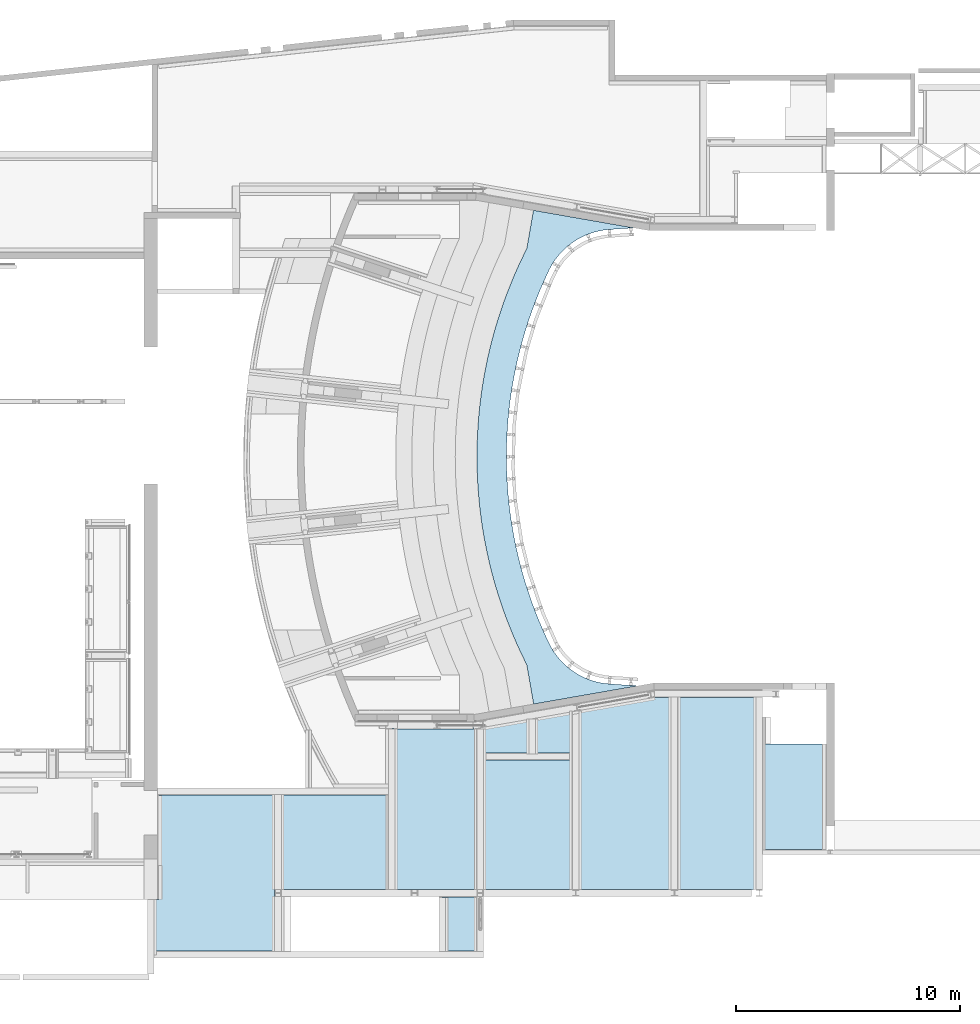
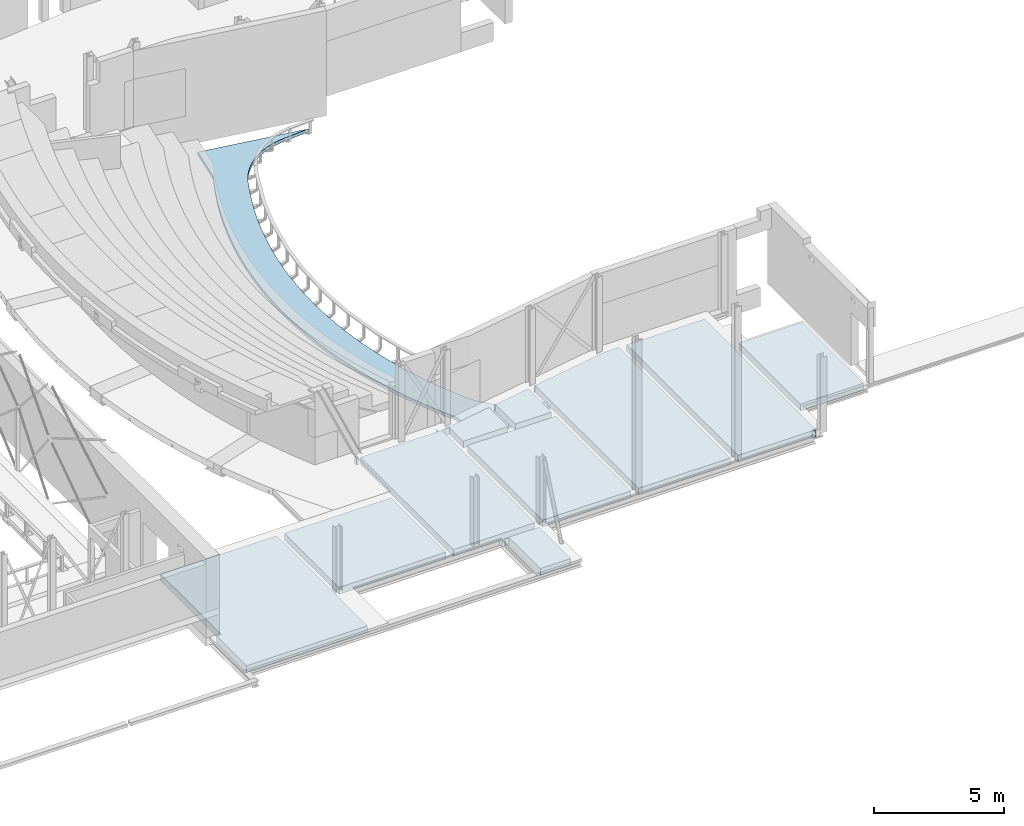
# One storey, part 49 of 68: 2 slabs, 19 openings.
"""IFC2X3 building model written with IfcOpenShell, lengths in millimetres."""

from ifc_helpers import new_model, entity, si_unit, converted_unit, derived_unit, direction, frame, frame_2d, origin, origin_2d_with_axis, place, context, subcontext, project, spatial, polyline, circle_curve, parameter, trimmed, segment, composite_curve, rectangle, outline, extrude, faceted_brep, material, layer, layer_set, layer_usage, type_object, element, save


model = new_model("IFC2X3")

# Units and contexts
model_context = context("Model", 3, precision=0.01, world=origin(), true_north=direction((6.12303176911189e-17, 1.0)))
body_context = subcontext(model_context, "Body", "Model", "MODEL_VIEW")
ifc_project = project(units=[si_unit("LENGTHUNIT", "METRE", prefix="MILLI"), si_unit("AREAUNIT", "SQUARE_METRE", prefix="MILLI"), si_unit("VOLUMEUNIT", "CUBIC_METRE"), converted_unit("PLANEANGLEUNIT", "DEGREE", entity("IfcRatioMeasure", 0.0174532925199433), si_unit("PLANEANGLEUNIT", "RADIAN"), dimensions=[0, 0, 0, 0, 0, 0, 0]), si_unit("MASSUNIT", "GRAM", prefix="KILO"), derived_unit("MASSDENSITYUNIT", [(si_unit("MASSUNIT", "GRAM", prefix="KILO"), 1), (si_unit("LENGTHUNIT", "METRE"), -3)]), derived_unit("MOMENTOFINERTIAUNIT", [(si_unit("LENGTHUNIT", "METRE"), 4)]), si_unit("TIMEUNIT", "SECOND"), si_unit("FREQUENCYUNIT", "HERTZ"), si_unit("THERMODYNAMICTEMPERATUREUNIT", "DEGREE_CELSIUS"), derived_unit("THERMALTRANSMITTANCEUNIT", [(si_unit("MASSUNIT", "GRAM", prefix="KILO"), 1), (si_unit("THERMODYNAMICTEMPERATUREUNIT", "KELVIN"), -1), (si_unit("TIMEUNIT", "SECOND"), -3)]), derived_unit("VOLUMETRICFLOWRATEUNIT", [(si_unit("LENGTHUNIT", "METRE"), 3), (si_unit("TIMEUNIT", "SECOND"), -1)]), si_unit("ELECTRICCURRENTUNIT", "AMPERE"), si_unit("ELECTRICVOLTAGEUNIT", "VOLT"), si_unit("POWERUNIT", "WATT"), si_unit("FORCEUNIT", "NEWTON", prefix="KILO"), si_unit("ILLUMINANCEUNIT", "LUX"), si_unit("LUMINOUSFLUXUNIT", "LUMEN"), si_unit("LUMINOUSINTENSITYUNIT", "CANDELA"), derived_unit("USERDEFINED", [(si_unit("MASSUNIT", "GRAM", prefix="KILO"), -1), (si_unit("LENGTHUNIT", "METRE"), -2), (si_unit("TIMEUNIT", "SECOND"), 3), (si_unit("LUMINOUSFLUXUNIT", "LUMEN"), 1)]), derived_unit("LINEARVELOCITYUNIT", [(si_unit("LENGTHUNIT", "METRE"), 1), (si_unit("TIMEUNIT", "SECOND"), -1)]), si_unit("PRESSUREUNIT", "PASCAL"), derived_unit("USERDEFINED", [(si_unit("LENGTHUNIT", "METRE"), -2), (si_unit("MASSUNIT", "GRAM", prefix="KILO"), 1), (si_unit("TIMEUNIT", "SECOND"), -2)]), derived_unit("LINEARFORCEUNIT", [(si_unit("MASSUNIT", "GRAM", prefix="KILO"), 1), (si_unit("LENGTHUNIT", "METRE"), 1), (si_unit("TIMEUNIT", "SECOND"), -2), (si_unit("LENGTHUNIT", "METRE"), -1)]), derived_unit("PLANARFORCEUNIT", [(si_unit("MASSUNIT", "GRAM", prefix="KILO"), 1), (si_unit("LENGTHUNIT", "METRE"), 1), (si_unit("TIMEUNIT", "SECOND"), -2), (si_unit("LENGTHUNIT", "METRE"), -2)])], contexts=[model_context])

# Site, building, storey
site_placement = place(None, origin())
site = spatial("IfcSite", under=ifc_project, at=site_placement, Name="Theater aan de Parade", CompositionType="ELEMENT")
building_placement = place(site_placement, origin())
building = spatial("IfcBuilding", under=site, at=building_placement, Name="Theater aan de Parade", CompositionType="ELEMENT")
storey_placement = place(building_placement, frame((0.0, 0.0, 8750.0)))
storey = spatial("IfcBuildingStorey", under=building, at=storey_placement, Name="02 tweede verdieping", CompositionType="ELEMENT", Elevation=8750.0)

# Slab, openings
ifc_material_1 = material(Name="00_PBT_MAT_systeemvloer")
ifc_layer_1 = layer(ifc_material_1, 320.0)
ifc_layer_set_1 = layer_set([ifc_layer_1], Name="Floor:28_PBT_FL_kanaalplaat_d=320")
ifc_layer_usage_1 = layer_usage(ifc_layer_set_1, "AXIS3", "POSITIVE", 0.0)
slab_type_1 = type_object("IfcSlabType", Name="Floor:28_PBT_FL_kanaalplaat_d=320", PredefinedType="FLOOR", material=ifc_layer_set_1)
slab_1_placement = place(storey_placement, frame((37313.8581300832, 10357.0, -460.0)))
slab_1 = element("IfcSlab", 1, at=slab_1_placement, inside=storey, type_object=slab_type_1, material=ifc_layer_usage_1, Name="Floor:28_PBT_FL_kanaalplaat_d=320", ObjectType="Floor:28_PBT_FL_kanaalplaat_d=320", PredefinedType="FLOOR", context=body_context, shape_type="SweptSolid", body=[
    extrude(outline(polyline([(14786.1989854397, -3351.77323029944), (14786.1989854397, 1479.24437555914), (4381.89559468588, 1479.24437555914), (4381.89559468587, 4424.0), (683.653931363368, 4424.0), (-7373.48892577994, 5834.0), (-12034.4949599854, 5834.0), (-12034.4949599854, 3599.81348587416), (-14996.1989854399, 3599.81348587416), (-14996.1989854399, -1241.0), (-12034.4949599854, -1241.0), (-12034.4949599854, -2916.0), (-11684.4949599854, -2916.0), (-11684.4949599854, -3066.0), (441.501955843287, -3066.0), (441.501955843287, -5824.0), (2141.34163382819, -5824.0), (2141.34163382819, -3066.0), (9465.14795208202, -3066.0), (9465.14795208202, -5824.0), (15156.1989854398, -5824.0), (15156.1989854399, -3351.77323029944), (14786.1989854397, -3351.77323029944)])), frame((14996.1989854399, 5664.0, 320.0), z_axis=(0.0, 0.0, -1.0), x_axis=(-1.0, 0.0, 0.0)), (0.0, 0.0, 1.0), 320.0),
])
opening_1_placement = place(slab_1_placement, origin())
element("IfcOpeningElement", 2, at=opening_1_placement, cuts=slab_1, ObjectType="Opening", context=body_context, shape_type="SweptSolid", body=[
    extrude(rectangle(XDim=3334.52676970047, YDim=320.000000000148, at=origin_2d_with_axis()), frame((-160.0, 644.963384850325, -5.0), z_axis=(0.0, 0.0, 1.0), x_axis=(0.0, -1.0, 0.0)), (0.0, 0.0, 1.0), 325.0),
])
opening_2_placement = place(slab_1_placement, origin())
element("IfcOpeningElement", 3, at=opening_2_placement, cuts=slab_1, ObjectType="Opening", context=body_context, shape_type="SweptSolid", body=[
    extrude(rectangle(XDim=339.999999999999, YDim=10320.0, at=origin_2d_with_axis()), frame((5300.0, 7143.24437555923, -5.0), z_axis=(0.0, 0.0, 1.0), x_axis=(0.0, -1.0, 0.0)), (0.0, 0.0, 1.0), 325.0),
])
opening_3_placement = place(slab_1_placement, origin())
element("IfcOpeningElement", 4, at=opening_3_placement, cuts=slab_1, ObjectType="Opening", context=body_context, shape_type="SweptSolid", body=[
    extrude(rectangle(XDim=21300.0, YDim=339.999999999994, at=origin_2d_with_axis()), frame((16030.6939454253, 2598.0, -80.0), z_axis=(0.0, 0.0, 1.0), x_axis=(-1.0, 0.0, 0.0)), (0.0, 0.0, 1.0), 550.0),
])
opening_4_placement = place(slab_1_placement, origin())
element("IfcOpeningElement", 5, at=opening_4_placement, cuts=slab_1, ObjectType="Opening", context=body_context, shape_type="SweptSolid", body=[
    extrude(rectangle(XDim=339.999999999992, YDim=3515.82327780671, at=origin_2d_with_axis()), frame((12472.6992357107, 10088.0, 0.0), z_axis=(0.0, 0.0, 1.0), x_axis=(0.0, 1.0, 0.0)), (0.0, 0.0, 1.0), 320.0),
])
opening_5_placement = place(slab_1_placement, origin())
element("IfcOpeningElement", 6, at=opening_5_placement, cuts=slab_1, ObjectType="Opening", context=body_context, shape_type="SweptSolid", body=[
    extrude(rectangle(XDim=8227.18093451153, YDim=340.000000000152, at=origin_2d_with_axis()), frame((18290.5280190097, 10784.1470188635, -5.0), z_axis=(0.0, 0.0, 1.0), x_axis=(-0.985030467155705, -0.172380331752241, 0.0)), (0.0, 0.0, 1.0), 325.0),
])
opening_6_placement = place(slab_1_placement, origin())
element("IfcOpeningElement", 7, at=opening_6_placement, cuts=slab_1, ObjectType="Opening", context=body_context, shape_type="SweptSolid", body=[
    extrude(rectangle(XDim=339.999999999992, YDim=5560.0, at=origin_2d_with_axis()), frame((25118.1939454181, 11498.0, 0.0), z_axis=(0.0, 0.0, 1.0), x_axis=(0.0, 1.0, 0.0)), (0.0, 0.0, 1.0), 320.0),
])
opening_7_placement = place(slab_1_placement, origin())
element("IfcOpeningElement", 8, at=opening_7_placement, cuts=slab_1, ObjectType="Opening", context=body_context, shape_type="SweptSolid", body=[
    extrude(rectangle(XDim=340.000000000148, YDim=2467.99999999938, at=origin_2d_with_axis()), frame((14561.4470295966, 1214.0, -85.0), z_axis=(0.0, 0.0, 1.0), x_axis=(-1.0, 0.0, 0.0)), (0.0, 0.0, 1.0), 405.0),
])
opening_8_placement = place(slab_1_placement, frame((5261.05103335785, -20.0, -85.0)))
element("IfcOpeningElement", 9, at=opening_8_placement, cuts=slab_1, ObjectType="Opening", context=body_context, shape_type="Brep", body=[
    faceted_brep([(440.0, 2468.0, 1.0), (440.0, 1968.0, 1.0), (440.0, 2468.0, 0.0), (440.0, 0.0, 0.0), (440.0, 1968.0, 2.0), (440.0, 2468.0, 2.0), (440.0, 2468.0, 405.0), (440.0, 0.0, 405.0), (440.0, 150.0, 1.0), (440.0, 0.0, 1.0), (440.0, 0.0, 2.0), (440.0, 150.0, 2.0), (100.0, 2468.0, 1.0), (0.0, 2468.0, 1.0), (0.0, 2468.0, 2.0), (100.0, 2468.0, 0.0), (540.0, 2468.0, 1.0), (540.0, 2468.0, 2.0), (100.0, 2468.0, 2.0), (100.0, 2468.0, 405.0), (0.0, 0.0, 2.0), (0.0, 0.0, 1.0), (100.0, 0.0, 1.0), (100.0, 0.0, 0.0), (540.0, 0.0, 2.0), (540.0, 0.0, 1.0), (100.0, 0.0, 405.0), (100.0, 0.0, 2.0), (100.0, 2068.0, 2.0), (100.0, 2068.0, 1.0), (100.0, 100.0, 1.0), (100.0, 100.0, 2.0), (540.0, 150.0, 2.0), (540.0, 150.0, 1.0), (0.0, 100.0, 2.0), (0.0, 100.0, 1.0), (540.0, 1968.0, 2.0), (540.0, 1968.0, 1.0), (0.0, 2068.0, 2.0), (0.0, 2068.0, 1.0)], [[[0, 1, 2]], [[3, 2, 1]], [[4, 5, 6]], [[7, 4, 6]], [[4, 8, 1]], [[9, 3, 8]], [[1, 8, 3]], [[7, 10, 11]], [[4, 7, 11]], [[4, 11, 8]], [[12, 13, 14]], [[15, 12, 0]], [[0, 2, 15]], [[16, 0, 17]], [[12, 5, 0]], [[18, 19, 6]], [[18, 5, 12]], [[17, 0, 5]], [[6, 5, 18]], [[12, 14, 18]], [[20, 21, 22]], [[9, 22, 23]], [[23, 3, 9]], [[24, 9, 25]], [[9, 10, 22]], [[7, 26, 27]], [[22, 10, 27]], [[10, 9, 24]], [[27, 10, 7]], [[27, 20, 22]], [[7, 6, 19]], [[19, 26, 7]], [[18, 28, 19]], [[26, 19, 28]], [[29, 12, 15]], [[23, 29, 15]], [[29, 30, 28]], [[27, 26, 31]], [[28, 31, 26]], [[23, 22, 30]], [[29, 23, 30]], [[28, 30, 31]], [[23, 15, 2]], [[2, 3, 23]], [[32, 11, 10]], [[10, 24, 32]], [[8, 33, 25]], [[25, 9, 8]], [[8, 11, 32]], [[32, 33, 8]], [[33, 32, 24]], [[24, 25, 33]], [[27, 31, 34]], [[34, 20, 27]], [[30, 22, 21]], [[21, 35, 30]], [[21, 20, 34]], [[34, 35, 21]], [[35, 34, 31]], [[31, 30, 35]], [[36, 5, 4]], [[5, 36, 17]], [[1, 16, 37]], [[16, 1, 0]], [[16, 17, 36]], [[36, 37, 16]], [[1, 36, 4]], [[36, 1, 37]], [[18, 14, 38]], [[38, 28, 18]], [[13, 12, 29]], [[29, 39, 13]], [[29, 28, 38]], [[38, 39, 29]], [[39, 38, 14]], [[14, 13, 39]]]),
])
opening_9_placement = place(slab_1_placement, origin())
element("IfcOpeningElement", 10, at=opening_9_placement, cuts=slab_1, ObjectType="Opening", context=body_context, shape_type="SweptSolid", body=[
    extrude(rectangle(XDim=2412.99999999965, YDim=340.000000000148, at=origin_2d_with_axis()), frame((12861.6073516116, 1186.49999999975, -85.0), z_axis=(0.0, 0.0, 1.0), x_axis=(0.0, -1.0, 0.0)), (0.0, 0.0, 1.0), 405.0),
])
opening_10_placement = place(slab_1_placement, frame((5261.05103335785, 2748.0, -85.0)))
element("IfcOpeningElement", 11, at=opening_10_placement, cuts=slab_1, ObjectType="Opening", context=body_context, shape_type="Brep", body=[
    faceted_brep([(0.0, 0.0, 2.0), (0.0, 0.0, 1.0), (100.0, 0.0, 1.0), (440.0, 0.0, 1.0), (100.0, 0.0, 0.0), (440.0, 0.0, 0.0), (540.0, 0.0, 2.0), (540.0, 0.0, 1.0), (440.0, 0.0, 2.0), (440.0, 0.0, 405.0), (100.0, 0.0, 405.0), (100.0, 0.0, 2.0), (100.0, 4245.2443755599, 1.0), (0.0, 4245.2443755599, 1.0), (0.0, 4245.2443755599, 2.0), (100.0, 4245.2443755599, 0.0), (440.0, 4245.24437555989, 1.0), (440.0, 4245.24437555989, 0.0), (540.0, 4245.24437555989, 1.0), (540.0, 4245.24437555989, 2.0), (440.0, 4245.24437555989, 2.0), (100.0, 4245.2443755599, 2.0), (100.0, 4245.2443755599, 405.0), (440.0, 4245.24437555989, 405.0), (440.0, 500.0, 1.0), (440.0, 500.0, 2.0), (440.0, 4095.24437555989, 1.0), (440.0, 4095.24437555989, 2.0), (100.0, 400.0, 2.0), (100.0, 400.0, 1.0), (100.0, 4145.2443755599, 1.0), (100.0, 4145.2443755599, 2.0), (540.0, 4095.2443755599, 2.0), (540.0, 4095.2443755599, 1.0), (0.0, 4145.2443755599, 2.0), (0.0, 4145.2443755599, 1.0), (540.0, 500.0, 2.0), (540.0, 500.0, 1.0), (0.0, 400.0, 2.0), (0.0, 400.0, 1.0)], [[[0, 1, 2]], [[3, 2, 4]], [[4, 5, 3]], [[6, 3, 7]], [[3, 8, 2]], [[9, 10, 11]], [[2, 8, 11]], [[8, 3, 6]], [[11, 8, 9]], [[11, 0, 2]], [[12, 13, 14]], [[15, 12, 16]], [[16, 17, 15]], [[18, 16, 19]], [[12, 20, 16]], [[21, 22, 23]], [[21, 20, 12]], [[19, 16, 20]], [[23, 20, 21]], [[12, 14, 21]], [[5, 24, 3]], [[24, 5, 17]], [[9, 8, 25]], [[9, 25, 23]], [[24, 26, 25]], [[26, 17, 16]], [[17, 26, 24]], [[27, 20, 23]], [[27, 23, 25]], [[26, 27, 25]], [[10, 9, 23]], [[23, 22, 10]], [[10, 28, 11]], [[28, 10, 22]], [[4, 2, 29]], [[4, 29, 15]], [[28, 30, 29]], [[31, 22, 21]], [[22, 31, 28]], [[30, 12, 15]], [[30, 15, 29]], [[31, 30, 28]], [[5, 4, 15]], [[15, 17, 5]], [[20, 27, 32]], [[32, 19, 20]], [[18, 33, 26]], [[26, 16, 18]], [[32, 27, 26]], [[26, 33, 32]], [[19, 32, 33]], [[33, 18, 19]], [[34, 31, 21]], [[21, 14, 34]], [[13, 12, 30]], [[30, 35, 13]], [[34, 14, 13]], [[13, 35, 34]], [[31, 34, 35]], [[35, 30, 31]], [[25, 8, 36]], [[6, 36, 8]], [[37, 7, 24]], [[3, 24, 7]], [[36, 6, 7]], [[7, 37, 36]], [[25, 36, 37]], [[37, 24, 25]], [[38, 0, 11]], [[11, 28, 38]], [[29, 2, 1]], [[1, 39, 29]], [[38, 28, 29]], [[29, 39, 38]], [[0, 38, 39]], [[39, 1, 0]]]),
])
opening_11_placement = place(slab_1_placement, frame((10337.553390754, 2748.0, -85.0)))
element("IfcOpeningElement", 12, at=opening_11_placement, cuts=slab_1, ObjectType="Opening", context=body_context, shape_type="Brep", body=[
    faceted_brep([(0.0, 0.0, 2.0), (0.0, 0.0, 1.0), (100.0, 0.0, 1.0), (440.0, 0.0, 1.0), (100.0, 0.0, 0.0), (440.0, 0.0, 0.0), (540.0, 0.0, 2.0), (540.0, 0.0, 1.0), (440.0, 0.0, 2.0), (440.0, 0.0, 405.0), (100.0, 0.0, 405.0), (100.0, 0.0, 2.0), (100.0, 7190.0, 1.0), (0.0, 7190.0, 1.0), (0.0, 7190.0, 2.0), (100.0, 7190.0, 0.0), (440.0, 7190.0, 1.0), (440.0, 7190.0, 0.0), (540.0, 7190.0, 1.0), (540.0, 7190.0, 2.0), (440.0, 7190.0, 2.0), (100.0, 7190.0, 2.0), (100.0, 7190.0, 405.0), (440.0, 7190.0, 405.0), (440.0, 500.0, 1.0), (440.0, 500.0, 2.0), (440.0, 7040.0, 1.0), (440.0, 7040.0, 2.0), (100.0, 400.0, 2.0), (100.0, 400.0, 1.0), (100.0, 7090.0, 1.0), (100.0, 7090.0, 2.0), (540.0, 7040.0, 2.0), (540.0, 7040.0, 1.0), (0.0, 7090.0, 2.0), (0.0, 7090.0, 1.0), (540.0, 500.0, 2.0), (540.0, 500.0, 1.0), (0.0, 400.0, 2.0), (0.0, 400.0, 1.0)], [[[0, 1, 2]], [[3, 2, 4]], [[4, 5, 3]], [[6, 3, 7]], [[3, 8, 2]], [[9, 10, 11]], [[2, 8, 11]], [[8, 3, 6]], [[11, 8, 9]], [[11, 0, 2]], [[12, 13, 14]], [[15, 12, 16]], [[16, 17, 15]], [[18, 16, 19]], [[12, 20, 16]], [[21, 22, 23]], [[21, 20, 12]], [[19, 16, 20]], [[23, 20, 21]], [[12, 14, 21]], [[5, 24, 3]], [[24, 5, 17]], [[9, 8, 25]], [[9, 25, 23]], [[24, 26, 25]], [[26, 17, 16]], [[17, 26, 24]], [[27, 20, 23]], [[27, 23, 25]], [[26, 27, 25]], [[10, 9, 23]], [[23, 22, 10]], [[10, 28, 11]], [[28, 10, 22]], [[4, 2, 29]], [[4, 29, 15]], [[28, 30, 29]], [[31, 22, 21]], [[22, 31, 28]], [[30, 12, 15]], [[30, 15, 29]], [[31, 30, 28]], [[5, 4, 15]], [[15, 17, 5]], [[20, 27, 32]], [[32, 19, 20]], [[18, 33, 16]], [[26, 16, 33]], [[32, 27, 26]], [[26, 33, 32]], [[19, 32, 33]], [[33, 18, 19]], [[34, 31, 21]], [[21, 14, 34]], [[13, 12, 30]], [[30, 35, 13]], [[34, 14, 13]], [[13, 35, 34]], [[31, 34, 35]], [[35, 30, 31]], [[25, 8, 36]], [[6, 36, 8]], [[37, 7, 24]], [[3, 24, 7]], [[36, 6, 7]], [[7, 37, 36]], [[25, 36, 37]], [[37, 24, 25]], [[38, 0, 11]], [[11, 28, 38]], [[29, 2, 1]], [[1, 39, 29]], [[38, 28, 29]], [[29, 39, 38]], [[0, 38, 39]], [[39, 1, 0]]]),
])
opening_12_placement = place(slab_1_placement, frame((14291.4470295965, 2748.0, -85.0)))
element("IfcOpeningElement", 13, at=opening_12_placement, cuts=slab_1, ObjectType="Opening", context=body_context, shape_type="Brep", body=[
    faceted_brep([(100.0, 0.0, 405.0), (440.0, 0.0, 405.0), (440.0, 7190.0, 405.0), (100.0, 7190.0, 405.0), (0.0, 0.0, 2.0), (0.0, 0.0, 1.0), (100.0, 0.0, 1.0), (440.0, 0.0, 1.0), (100.0, 0.0, 0.0), (440.0, 0.0, 0.0), (540.0, 0.0, 2.0), (540.0, 0.0, 1.0), (440.0, 0.0, 2.0), (100.0, 0.0, 2.0), (100.0, 7190.0, 1.0), (0.0, 7190.0, 1.0), (0.0, 7190.0, 2.0), (100.0, 7190.0, 0.0), (440.0, 7190.0, 1.0), (440.0, 7190.0, 0.0), (540.0, 7190.0, 1.0), (540.0, 7190.0, 2.0), (440.0, 7190.0, 2.0), (100.0, 7190.0, 2.0), (440.0, 500.0, 1.0), (440.0, 500.0, 2.0), (440.0, 7040.0, 1.0), (440.0, 7040.0, 2.0), (100.0, 400.0, 2.0), (100.0, 400.0, 1.0), (100.0, 7090.0, 1.0), (100.0, 7090.0, 2.0), (540.0, 7040.0, 2.0), (540.0, 7040.0, 1.0), (0.0, 7090.0, 2.0), (0.0, 7090.0, 1.0), (540.0, 500.0, 2.0), (540.0, 500.0, 1.0), (0.0, 400.0, 2.0), (0.0, 400.0, 1.0)], [[[0, 1, 2]], [[2, 3, 0]], [[4, 5, 6]], [[7, 6, 8]], [[8, 9, 7]], [[10, 7, 11]], [[7, 12, 6]], [[1, 0, 13]], [[6, 12, 13]], [[12, 7, 10]], [[13, 12, 1]], [[13, 4, 6]], [[14, 15, 16]], [[17, 14, 18]], [[18, 19, 17]], [[20, 18, 21]], [[14, 22, 18]], [[23, 3, 2]], [[23, 22, 14]], [[21, 18, 22]], [[2, 22, 23]], [[14, 16, 23]], [[9, 24, 7]], [[24, 9, 19]], [[1, 12, 25]], [[1, 25, 2]], [[24, 26, 25]], [[26, 19, 18]], [[19, 26, 24]], [[27, 22, 2]], [[27, 2, 25]], [[26, 27, 25]], [[0, 28, 13]], [[28, 0, 3]], [[8, 6, 29]], [[8, 29, 17]], [[28, 30, 29]], [[31, 3, 23]], [[3, 31, 28]], [[30, 14, 17]], [[30, 17, 29]], [[31, 30, 28]], [[9, 8, 17]], [[17, 19, 9]], [[22, 27, 32]], [[32, 21, 22]], [[20, 33, 18]], [[26, 18, 33]], [[32, 27, 26]], [[26, 33, 32]], [[21, 32, 33]], [[33, 20, 21]], [[34, 31, 23]], [[23, 16, 34]], [[15, 14, 30]], [[30, 35, 15]], [[34, 16, 15]], [[15, 35, 34]], [[31, 34, 35]], [[35, 30, 31]], [[25, 12, 10]], [[10, 36, 25]], [[37, 11, 7]], [[7, 24, 37]], [[36, 10, 11]], [[11, 37, 36]], [[25, 36, 37]], [[37, 24, 25]], [[38, 4, 13]], [[13, 28, 38]], [[29, 6, 5]], [[5, 39, 29]], [[38, 28, 29]], [[29, 39, 38]], [[4, 38, 39]], [[39, 5, 4]]]),
])
opening_13_placement = place(slab_1_placement, frame((18555.6939454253, 2748.0, -85.0)))
element("IfcOpeningElement", 14, at=opening_13_placement, cuts=slab_1, ObjectType="Opening", context=body_context, shape_type="Brep", body=[
    faceted_brep([(100.0, 0.0, 405.0), (440.0, 0.0, 405.0), (440.0, 7977.52150220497, 405.0), (100.0, 7977.52150220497, 405.0), (0.0, 0.0, 2.0), (0.0, 0.0, 1.0), (100.0, 0.0, 1.0), (440.0, 0.0, 1.0), (100.0, 0.0, 0.0), (440.0, 0.0, 0.0), (540.0, 0.0, 2.0), (540.0, 0.0, 1.0), (440.0, 0.0, 2.0), (100.0, 0.0, 2.0), (100.0, 7977.52150220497, 1.0), (0.0, 7977.52150220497, 1.0), (0.0, 7977.52150220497, 2.0), (100.0, 7977.52150220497, 0.0), (440.0, 7977.52150220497, 1.0), (440.0, 7977.52150220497, 0.0), (540.0, 7977.52150220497, 1.0), (540.0, 7977.52150220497, 2.0), (440.0, 7977.52150220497, 2.0), (100.0, 7977.52150220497, 2.0), (440.0, 500.0, 1.0), (440.0, 500.0, 2.0), (440.0, 7827.52150220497, 1.0), (440.0, 7827.52150220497, 2.0), (100.0, 400.0, 2.0), (100.0, 400.0, 1.0), (100.0, 7877.52150220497, 1.0), (100.0, 7877.52150220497, 2.0), (540.0, 7827.52150220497, 2.0), (540.0, 7827.52150220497, 1.0), (0.0, 7877.52150220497, 2.0), (0.0, 7877.52150220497, 1.0), (540.0, 500.0, 2.0), (540.0, 500.0, 1.0), (0.0, 400.0, 2.0), (0.0, 400.0, 1.0)], [[[0, 1, 2]], [[2, 3, 0]], [[4, 5, 6]], [[7, 6, 8]], [[8, 9, 7]], [[10, 7, 11]], [[7, 12, 6]], [[1, 0, 13]], [[6, 12, 13]], [[12, 7, 10]], [[13, 12, 1]], [[13, 4, 6]], [[14, 15, 16]], [[17, 14, 18]], [[18, 19, 17]], [[20, 18, 21]], [[14, 22, 18]], [[23, 3, 2]], [[23, 22, 14]], [[21, 18, 22]], [[2, 22, 23]], [[14, 16, 23]], [[9, 24, 7]], [[24, 9, 19]], [[1, 12, 25]], [[1, 25, 2]], [[24, 26, 25]], [[26, 19, 18]], [[19, 26, 24]], [[27, 22, 2]], [[27, 2, 25]], [[26, 27, 25]], [[0, 28, 13]], [[28, 0, 3]], [[8, 6, 29]], [[8, 29, 17]], [[28, 30, 29]], [[31, 3, 23]], [[3, 31, 28]], [[30, 14, 17]], [[30, 17, 29]], [[31, 30, 28]], [[9, 8, 17]], [[17, 19, 9]], [[22, 27, 32]], [[32, 21, 22]], [[20, 33, 18]], [[26, 18, 33]], [[32, 27, 26]], [[26, 33, 32]], [[21, 32, 33]], [[33, 20, 21]], [[34, 31, 23]], [[23, 16, 34]], [[15, 14, 30]], [[30, 35, 15]], [[34, 16, 15]], [[15, 35, 34]], [[31, 34, 35]], [[35, 30, 31]], [[25, 12, 10]], [[10, 36, 25]], [[37, 11, 7]], [[7, 24, 37]], [[36, 10, 11]], [[11, 37, 36]], [[25, 36, 37]], [[37, 24, 25]], [[38, 4, 13]], [[13, 28, 38]], [[29, 6, 5]], [[5, 39, 29]], [[38, 28, 29]], [[29, 39, 38]], [[4, 38, 39]], [[39, 5, 4]]]),
])
opening_14_placement = place(slab_1_placement, frame((26760.6939454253, 2748.0, -85.0)))
element("IfcOpeningElement", 15, at=opening_14_placement, cuts=slab_1, ObjectType="Opening", context=body_context, shape_type="Brep", body=[
    faceted_brep([(100.0, 0.0, 405.0), (440.0, 0.0, 405.0), (100.0, 8600.0, 405.0), (440.0, 8600.0, 405.0), (100.0, 0.0, 2.0), (100.0, 0.0, 1.0), (440.0, 0.0, 0.0), (100.0, 0.0, 0.0), (0.0, 0.0, 2.0), (0.0, 0.0, 1.0), (440.0, 8600.0, 0.0), (100.0, 8600.0, 1.0), (100.0, 8600.0, 2.0), (100.0, 8600.0, 0.0), (0.0, 8600.0, 1.0), (0.0, 8600.0, 2.0), (100.0, 400.0, 2.0), (100.0, 400.0, 1.0), (100.0, 8500.0, 1.0), (100.0, 8500.0, 2.0), (0.0, 8500.0, 2.0), (0.0, 8500.0, 1.0), (0.0, 400.0, 2.0), (0.0, 400.0, 1.0)], [[[0, 1, 2]], [[3, 2, 1]], [[4, 5, 6]], [[7, 6, 5]], [[5, 8, 9]], [[6, 1, 4]], [[0, 4, 1]], [[5, 4, 8]], [[10, 11, 12]], [[11, 10, 13]], [[14, 15, 11]], [[12, 3, 10]], [[3, 12, 2]], [[15, 12, 11]], [[1, 6, 10]], [[10, 3, 1]], [[0, 16, 4]], [[16, 0, 2]], [[7, 5, 17]], [[7, 17, 13]], [[16, 18, 17]], [[19, 2, 12]], [[2, 19, 16]], [[18, 11, 13]], [[18, 13, 17]], [[19, 18, 16]], [[6, 7, 10]], [[13, 10, 7]], [[20, 19, 12]], [[12, 15, 20]], [[14, 11, 18]], [[18, 21, 14]], [[20, 15, 14]], [[14, 21, 20]], [[19, 20, 21]], [[21, 18, 19]], [[22, 8, 4]], [[4, 16, 22]], [[17, 5, 9]], [[9, 23, 17]], [[22, 16, 17]], [[17, 23, 22]], [[8, 22, 23]], [[23, 9, 8]]]),
])
opening_15_placement = place(slab_1_placement, origin())
element("IfcOpeningElement", 16, at=opening_15_placement, cuts=slab_1, ObjectType="Opening", context=body_context, shape_type="SweptSolid", body=[
    extrude(rectangle(XDim=320.000000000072, YDim=14731.4470295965, at=origin_2d_with_axis()), frame((7345.72351479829, -160.0, 0.0), z_axis=(0.0, 0.0, 1.0), x_axis=(0.0, -1.0, 0.0)), (0.0, 0.0, 1.0), 320.0),
])
opening_16_placement = place(slab_1_placement, origin())
element("IfcOpeningElement", 17, at=opening_16_placement, cuts=slab_1, ObjectType="Opening", context=body_context, shape_type="SweptSolid", body=[
    extrude(rectangle(XDim=240.000000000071, YDim=2921.50427246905, at=origin_2d_with_axis()), frame((28641.4460816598, 4423.0, 0.0), z_axis=(0.0, 0.0, 1.0), x_axis=(0.0, -1.0, 0.0)), (0.0, 0.0, 1.0), 320.0),
])
opening_17_placement = place(slab_1_placement, frame((22966.6939454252, 2748.0, -85.0)))
element("IfcOpeningElement", 18, at=opening_17_placement, cuts=slab_1, ObjectType="Opening", context=body_context, shape_type="Brep", body=[
    faceted_brep([(100.0, 0.0, 405.0), (440.0, 0.0, 405.0), (100.0, 8600.0, 405.0), (440.0, 8600.0, 405.0), (0.0, 0.0, 2.0), (0.0, 0.0, 1.0), (100.0, 0.0, 1.0), (440.0, 0.0, 1.0), (100.0, 0.0, 0.0), (440.0, 0.0, 0.0), (540.0, 0.0, 2.0), (540.0, 0.0, 1.0), (440.0, 0.0, 2.0), (100.0, 0.0, 2.0), (100.0, 8600.0, 1.0), (0.0, 8600.0, 1.0), (0.0, 8600.0, 2.0), (100.0, 8600.0, 0.0), (440.0, 8600.0, 1.0), (440.0, 8600.0, 0.0), (540.0, 8600.0, 1.0), (540.0, 8600.0, 2.0), (440.0, 8600.0, 2.0), (100.0, 8600.0, 2.0), (440.0, 500.0, 1.0), (440.0, 500.0, 2.0), (440.0, 8450.0, 1.0), (440.0, 8450.0, 2.0), (100.0, 400.0, 2.0), (100.0, 400.0, 1.0), (100.0, 8500.0, 1.0), (100.0, 8500.0, 2.0), (540.0, 8450.0, 2.0), (540.0, 8450.0, 1.0), (0.0, 8500.0, 2.0), (0.0, 8500.0, 1.0), (540.0, 500.0, 2.0), (540.0, 500.0, 1.0), (0.0, 400.0, 2.0), (0.0, 400.0, 1.0)], [[[0, 1, 2]], [[3, 2, 1]], [[4, 5, 6]], [[7, 6, 8]], [[8, 9, 7]], [[10, 7, 11]], [[7, 12, 6]], [[1, 0, 13]], [[6, 12, 13]], [[12, 7, 10]], [[13, 12, 1]], [[13, 4, 6]], [[14, 15, 16]], [[17, 14, 18]], [[18, 19, 17]], [[20, 18, 21]], [[14, 22, 18]], [[23, 2, 3]], [[23, 22, 14]], [[21, 18, 22]], [[3, 22, 23]], [[14, 16, 23]], [[9, 24, 7]], [[24, 9, 19]], [[1, 12, 25]], [[1, 25, 3]], [[24, 26, 25]], [[26, 19, 18]], [[19, 26, 24]], [[27, 22, 3]], [[27, 3, 25]], [[26, 27, 25]], [[0, 28, 13]], [[28, 0, 2]], [[8, 6, 29]], [[8, 29, 17]], [[28, 30, 29]], [[31, 2, 23]], [[2, 31, 28]], [[30, 14, 17]], [[30, 17, 29]], [[31, 30, 28]], [[9, 8, 19]], [[17, 19, 8]], [[22, 27, 32]], [[32, 21, 22]], [[20, 33, 18]], [[26, 18, 33]], [[32, 27, 26]], [[26, 33, 32]], [[21, 32, 33]], [[33, 20, 21]], [[34, 31, 23]], [[23, 16, 34]], [[15, 14, 30]], [[30, 35, 15]], [[34, 16, 15]], [[15, 35, 34]], [[31, 34, 35]], [[35, 30, 31]], [[25, 12, 10]], [[10, 36, 25]], [[37, 11, 7]], [[7, 24, 37]], [[36, 10, 11]], [[11, 37, 36]], [[25, 36, 37]], [[37, 24, 25]], [[38, 4, 13]], [[13, 28, 38]], [[29, 6, 5]], [[5, 39, 29]], [[38, 28, 29]], [[29, 39, 38]], [[4, 38, 39]], [[39, 5, 4]]]),
])
opening_18_placement = place(slab_1_placement, frame((16620.258413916, 8803.0, -5.0)))
element("IfcOpeningElement", 19, at=opening_18_placement, cuts=slab_1, ObjectType="Opening", context=body_context, shape_type="Brep", body=[
    faceted_brep([(0.0, 0.0, 2.0), (0.0, 0.0, 1.0), (105.0, 0.0, 1.0), (425.0, 0.0, 1.0), (105.0, 0.0, 0.0), (425.0, 0.0, 0.0), (530.0, 0.0, 2.0), (530.0, 0.0, 1.0), (425.0, 0.0, 2.0), (425.0, 0.0, 405.0), (105.0, 0.0, 405.0), (105.0, 0.0, 2.0), (105.0, 1582.94528419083, 1.0), (0.0, 1582.94528419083, 1.0), (0.0, 1582.94528419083, 2.0), (105.0, 1582.94528419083, 0.0), (425.0, 1582.94528419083, 1.0), (425.0, 1582.94528419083, 0.0), (530.0, 1582.94528419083, 1.0), (530.0, 1582.94528419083, 2.0), (425.0, 1582.94528419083, 2.0), (105.0, 1582.94528419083, 2.0), (105.0, 1582.94528419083, 405.0), (425.0, 1582.94528419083, 405.0), (425.0, 500.0, 1.0), (425.0, 500.0, 2.0), (425.0, 1432.94528419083, 1.0), (425.0, 1432.94528419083, 2.0), (105.0, 400.0, 2.0), (105.0, 400.0, 1.0), (105.0, 1482.94528419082, 1.0), (105.0, 1482.94528419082, 2.0), (530.0, 1432.94528419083, 2.0), (530.0, 1432.94528419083, 1.0), (0.0, 1482.94528419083, 2.0), (0.0, 1482.94528419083, 1.0), (530.0, 500.0, 2.0), (530.0, 500.0, 1.0), (0.0, 400.0, 2.0), (0.0, 400.0, 1.0)], [[[0, 1, 2]], [[3, 2, 4]], [[4, 5, 3]], [[6, 3, 7]], [[3, 8, 2]], [[9, 10, 11]], [[2, 8, 11]], [[8, 3, 6]], [[11, 8, 9]], [[11, 0, 2]], [[12, 13, 14]], [[15, 12, 16]], [[16, 17, 15]], [[18, 16, 19]], [[12, 20, 16]], [[21, 22, 23]], [[21, 20, 12]], [[19, 16, 20]], [[23, 20, 21]], [[12, 14, 21]], [[5, 24, 3]], [[24, 5, 17]], [[9, 8, 25]], [[9, 25, 23]], [[24, 26, 25]], [[26, 17, 16]], [[17, 26, 24]], [[27, 20, 23]], [[27, 23, 25]], [[26, 27, 25]], [[10, 9, 22]], [[23, 22, 9]], [[10, 28, 11]], [[28, 10, 22]], [[4, 2, 29]], [[4, 29, 15]], [[28, 30, 29]], [[31, 22, 21]], [[22, 31, 28]], [[30, 12, 15]], [[30, 15, 29]], [[31, 30, 28]], [[5, 4, 17]], [[15, 17, 4]], [[20, 27, 32]], [[32, 19, 20]], [[18, 33, 26]], [[26, 16, 18]], [[32, 27, 26]], [[26, 33, 32]], [[19, 32, 33]], [[33, 18, 19]], [[34, 31, 21]], [[21, 14, 34]], [[13, 12, 30]], [[30, 35, 13]], [[34, 14, 13]], [[13, 35, 34]], [[31, 34, 35]], [[35, 30, 31]], [[25, 8, 6]], [[6, 36, 25]], [[37, 7, 3]], [[3, 24, 37]], [[36, 6, 7]], [[7, 37, 36]], [[25, 36, 37]], [[37, 24, 25]], [[38, 0, 11]], [[11, 28, 38]], [[29, 2, 39]], [[1, 39, 2]], [[38, 28, 29]], [[29, 39, 38]], [[0, 38, 39]], [[39, 1, 0]]]),
])
opening_19_placement = place(slab_1_placement, origin())
element("IfcOpeningElement", 20, at=opening_19_placement, cuts=slab_1, ObjectType="Opening", context=body_context, shape_type="SweptSolid", body=[
    extrude(rectangle(XDim=3964.24691582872, YDim=320.000000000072, at=origin_2d_with_axis()), frame((16693.5704875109, 8703.0, 0.0), z_axis=(0.0, 0.0, 1.0), x_axis=(-1.0, 0.0, 0.0)), (0.0, 0.0, 1.0), 320.0),
])

# Slab
ifc_material_2 = material(Name="00_PBT_MAT_beton t.p.g._C30/37")
ifc_layer_2 = layer(ifc_material_2, 150.0)
ifc_layer_set_2 = layer_set([ifc_layer_2], Name="Floor:28_PBT_FL_beton t.p.g._d=150_C30/37")
ifc_layer_usage_2 = layer_usage(ifc_layer_set_2, "AXIS3", "POSITIVE", 0.0)
slab_type_2 = type_object("IfcSlabType", Name="Floor:28_PBT_FL_beton t.p.g._d=150_C30/37", PredefinedType="FLOOR", material=ifc_layer_set_2)
slab_2_placement = place(storey_placement, origin())
element("IfcSlab", 21, at=slab_2_placement, inside=storey, type_object=slab_type_2, material=ifc_layer_usage_2, Name="Floor:28_PBT_FL_beton t.p.g._d=150_C30/37", ObjectType="Floor:28_PBT_FL_beton t.p.g._d=150_C30/37", PredefinedType="FLOOR", context=body_context, shape_type="SweptSolid", body=[
    extrude(outline(composite_curve([segment(polyline([(-3522.6392353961, -10564.2674982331), (1016.82163899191, -10564.2674982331)]), True, "CONTINUOUS"), segment(polyline([(1016.82163899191, -10564.2674982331), (-77.2395544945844, -10291.7829447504)]), True, "CONTINUOUS"), segment(trimmed(circle_curve(frame_2d((736.797029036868, -7155.39676624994), x_axis=(-0.251222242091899, -0.967929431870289)), 3240.3045875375), [parameter(297.840317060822)], [parameter(0.0)], True, "PARAMETER"), False, "CONTINUOUS"), segment(trimmed(circle_curve(frame_2d((16110.7353400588, -2825.12937540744), x_axis=(-0.964469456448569, -0.264194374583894)), 19210.0), [parameter(309.509333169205)], [parameter(0.0)], True, "PARAMETER"), False, "CONTINUOUS"), segment(trimmed(circle_curve(frame_2d((3121.02728576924, 6468.77612936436), x_axis=(-0.8373090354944, 0.546729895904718)), 3240.30458753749), [parameter(297.840317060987)], [parameter(0.0)], True, "PARAMETER"), False, "CONTINUOUS"), segment(polyline([(3420.4848472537, 9695.21363672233), (4724.51401519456, 9561.21291490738)]), True, "CONTINUOUS"), segment(polyline([(4724.51401519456, 9561.21291490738), (287.4340362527, 11163.2533973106)]), True, "CONTINUOUS"), segment(polyline([(287.434036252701, 11163.2533973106), (-317.904570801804, 9486.6816481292)]), True, "CONTINUOUS"), segment(trimmed(circle_curve(frame_2d((16110.7353400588, -2825.12937540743), x_axis=(-0.800226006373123, 0.599698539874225)), 20530.0), [parameter(0.0)], [parameter(53.8441293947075)], True, "PARAMETER"), True, "CONTINUOUS"), segment(polyline([(-3522.63923539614, -8826.08786383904), (-3522.6392353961, -10564.2674982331)]), True, "CONTINUOUS")], self_intersect=False)), frame((55903.4381027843, 32444.3353942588, -2040.0), z_axis=(0.0, 0.0, -1.0), x_axis=(0.985030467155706, -0.17238033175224, 0.0)), (0.0, 0.0, 1.0), 150.000000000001),
])

save(model, "model.ifc")
